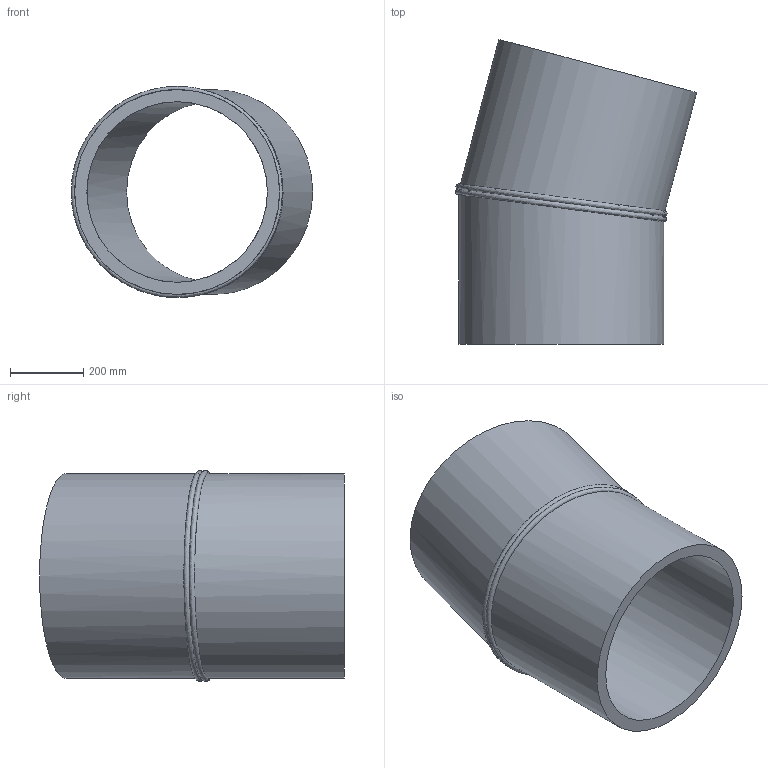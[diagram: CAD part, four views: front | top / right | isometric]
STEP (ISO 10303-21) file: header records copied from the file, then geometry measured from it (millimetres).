
FILE_DESCRIPTION(/* description */ ('Unknown'),/* implementation_level */ '2;1');
FILE_NAME(/* name */ 'Curva 15° a settore DE560 SDR26',/* time_stamp */ '2022-07-25T11:07:42+02:00',/* author */ ('Unknown'),/* organization */ ('Unknown'),/* preprocessor_version */ 'ST-DEVELOPER v18.102',/* originating_system */ 'Solid Edge',/* authorisation */ 'Unknown');
FILE_SCHEMA (('AUTOMOTIVE_DESIGN {1 0 10303 214 3 1 1}'));
Length unit declared in the file: millimetre
Products named in the file (2): Curva 15° a settore DE560 SDR26; Tubo x Gomito 15° DE560 SDR26
Assembly tree (2 placements, depth 2):
  Curva 15° a settore DE560 SDR26
    Tubo x Gomito 15° DE560 SDR26  x2
Bounding box: 660.01 x 833.01 x 576.93 mm (x, y, z)
Volume: 42881216 mm3; surface area: 2821323.7 mm2
Topology: 2 solids, 2 shells, 10 faces, 20 edges, 14 vertices
Faces by surface type: cylinder 4, plane 4, bspline 2
Full cylindrical faces by diameter (mm): 493.6 x2, 560 x2
Entity records: 1290 total; most frequent: CARTESIAN_POINT 1153, DIRECTION 20, ORIENTED_EDGE 10, EDGE_LOOP 10, FACE_BOUND 10, AXIS2_PLACEMENT_3D 10, EDGE_CURVE 5, VERTEX_POINT 5
